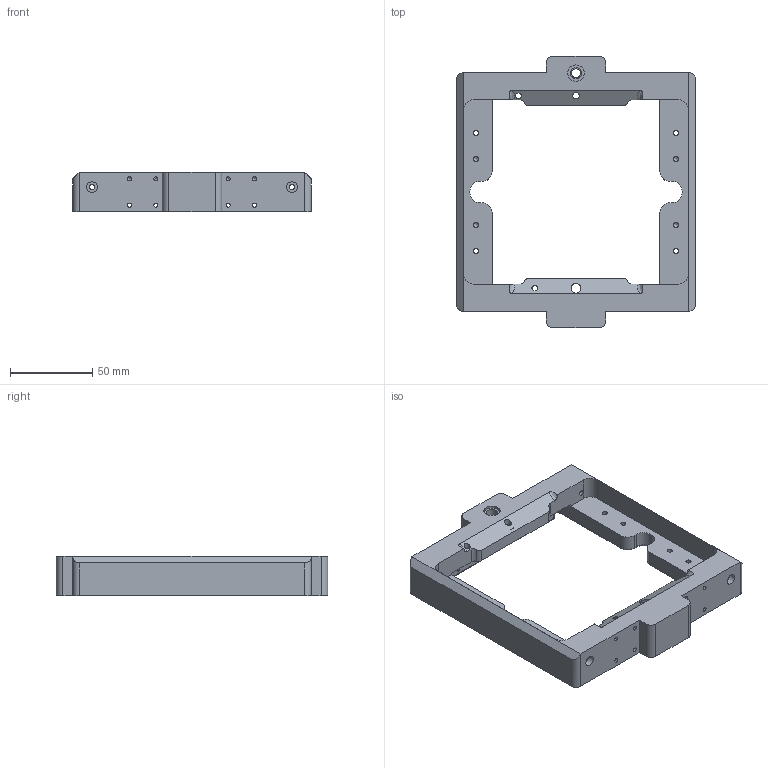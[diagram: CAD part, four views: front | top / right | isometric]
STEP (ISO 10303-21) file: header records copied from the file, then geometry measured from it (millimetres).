
FILE_DESCRIPTION(/* description */ ('Guide Frame '),/* implementation_level */ '2;1');
FILE_NAME(/* name */ 'Z:\Werkstatt Server\Projekte\Atlas\Entwicklung u. Konstruktion\Konstruktion\CAD Daten\ITkPixToolV2.0\Stencil Tool\ITPTv2.03.00.01.stp',/* time_stamp */ '2021-08-06T14:10:01+02:00',/* author */ ('Tim Kanngießer'),/* organization */ (''),/* preprocessor_version */ 'ST-DEVELOPER v18.1',/* originating_system */ 'Autodesk Inventor 2022',/* authorisation */ '');
FILE_SCHEMA (('AUTOMOTIVE_DESIGN { 1 0 10303 214 3 1 1 }'));
Length unit declared in the file: millimetre
Products named in the file (1): ITPTv2.03.00.01
Bounding box: 145 x 165 x 24 mm (x, y, z)
Volume: 161224.4 mm3; surface area: 49978.1 mm2
Topology: 1 solids, 1 shells, 215 faces, 552 edges, 346 vertices
Faces by surface type: cylinder 109, plane 62, torus 20, cone 16, sphere 4, bspline 4
Full cylindrical faces by diameter (mm): 2.459 x16, 3 x4, 3.2 x8, 3.5 x2, 4 x1, 5.4 x1, 6 x1, 6.5 x8, 7 x1, 8 x2, 10 x1
Entity records: 6938 total; most frequent: CARTESIAN_POINT 1477, DIRECTION 1193, ORIENTED_EDGE 1078, EDGE_CURVE 539, AXIS2_PLACEMENT_3D 460, VERTEX_POINT 346, EDGE_LOOP 279, LINE 273
